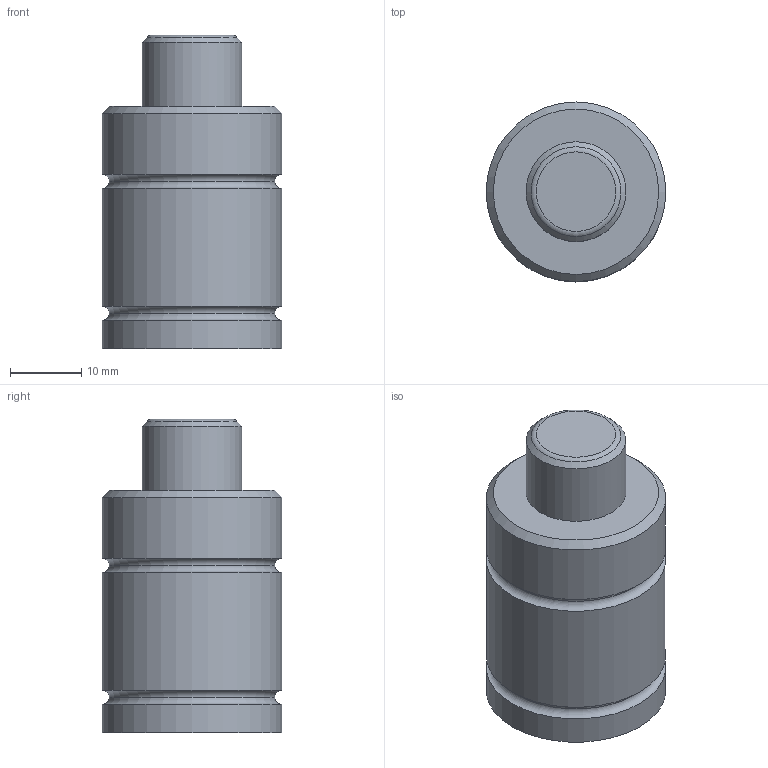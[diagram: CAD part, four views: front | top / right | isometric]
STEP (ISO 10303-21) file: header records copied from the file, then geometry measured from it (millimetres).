
FILE_DESCRIPTION(('FreeCAD Model'),'2;1');
FILE_NAME('Open CASCADE Shape Model','2024-11-11T17:06:01',('Author'),( ''),'Open CASCADE STEP processor 7.6','FreeCAD','Unknown');
FILE_SCHEMA(('AUTOMOTIVE_DESIGN { 1 0 10303 214 1 1 1 1 }'));
Length unit declared in the file: millimetre
Products named in the file (5): Unnamed; Part001; Fillet; Part003; Cut
Assembly tree (4 placements, depth 3):
  Unnamed
    Part001
      Fillet
    Part003
      Cut
Bounding box: 25.2 x 25.2 x 44 mm (x, y, z)
Volume: 18196.6 mm3; surface area: 4516.1 mm2
Topology: 2 solids, 2 shells, 15 faces, 24 edges, 13 vertices
Faces by surface type: torus 5, cylinder 4, plane 4, cone 2
Full cylindrical faces by diameter (mm): 14 x1, 25.2 x3
Entity records: 446 total; most frequent: DIRECTION 82, CARTESIAN_POINT 57, ORIENTED_EDGE 48, AXIS2_PLACEMENT_3D 38, EDGE_CURVE 24, CIRCLE 18, ADVANCED_FACE 15, FACE_BOUND 15
